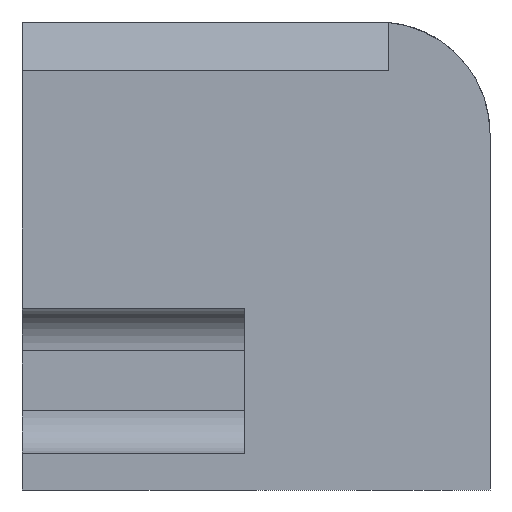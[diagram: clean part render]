
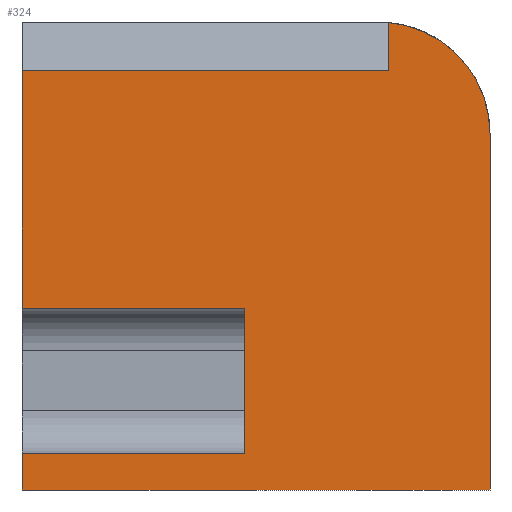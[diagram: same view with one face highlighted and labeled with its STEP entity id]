
A CAD part, left-side view. The second image highlights one B-rep face of the part: STEP entity #324.
In plain terms, the highlighted planar face has unit normal (-1, 0, 0).
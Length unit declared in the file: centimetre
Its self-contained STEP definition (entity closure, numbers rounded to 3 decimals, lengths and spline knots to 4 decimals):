
#7 = EDGE_CURVE ( 'NONE', #438, #342, #726, .T. ) ;
#9 = LINE ( 'NONE', #554, #192 ) ;
#19 = LINE ( 'NONE', #388, #980 ) ;
#20 = AXIS2_PLACEMENT_3D ( 'NONE', #312, #857, #673 ) ;
#30 = EDGE_CURVE ( 'NONE', #342, #910, #9, .T. ) ;
#54 = LINE ( 'NONE', #715, #279 ) ;
#81 = CARTESIAN_POINT ( 'NONE',  ( 0., 216.6511, 1000. ) ) ;
#88 = ORIENTED_EDGE ( 'NONE', *, *, #1122, .T. ) ;
#101 = CARTESIAN_POINT ( 'NONE',  ( 0., 239.1304, 760.8696 ) ) ;
#111 = LINE ( 'NONE', #1060, #928 ) ;
#112 = VERTEX_POINT ( 'NONE', #174 ) ;
#149 = ORIENTED_EDGE ( 'NONE', *, *, #972, .F. ) ;
#159 = EDGE_CURVE ( 'NONE', #314, #910, #653, .T. ) ;
#166 = DIRECTION ( 'NONE',  ( 0., 0., -1. ) ) ;
#168 = AXIS2_PLACEMENT_3D ( 'NONE', #101, #1127, #332 ) ;
#174 = CARTESIAN_POINT ( 'NONE',  ( 0., 216.6511, 998.9411 ) ) ;
#190 = DIRECTION ( 'NONE',  ( 0., 0., 1. ) ) ;
#192 = VECTOR ( 'NONE', #1069, 100. ) ;
#232 = CIRCLE ( 'NONE', #168, 239.1304 ) ;
#253 = CARTESIAN_POINT ( 'NONE',  ( 0., 0., 760.8696 ) ) ;
#260 = CARTESIAN_POINT ( 'NONE',  ( 0., 1000., 78.3353 ) ) ;
#268 = ORIENTED_EDGE ( 'NONE', *, *, #159, .F. ) ;
#274 = ORIENTED_EDGE ( 'NONE', *, *, #1112, .F. ) ;
#276 = VECTOR ( 'NONE', #1096, 100. ) ;
#279 = VECTOR ( 'NONE', #1045, 100. ) ;
#288 = CARTESIAN_POINT ( 'NONE',  ( 0., 1000., 1000. ) ) ;
#293 = LINE ( 'NONE', #288, #1053 ) ;
#297 = LINE ( 'NONE', #525, #557 ) ;
#301 = VECTOR ( 'NONE', #190, 100. ) ;
#312 = CARTESIAN_POINT ( 'NONE',  ( 0., 1000., 1000. ) ) ;
#314 = VERTEX_POINT ( 'NONE', #852 ) ;
#324 = ADVANCED_FACE ( 'NONE', ( #1025 ), #403, .F. ) ;
#325 = CARTESIAN_POINT ( 'NONE',  ( 0., 1000., 388.5053 ) ) ;
#332 = DIRECTION ( 'NONE',  ( 0., 0., -1. ) ) ;
#342 = VERTEX_POINT ( 'NONE', #325 ) ;
#360 = EDGE_CURVE ( 'NONE', #314, #365, #297, .T. ) ;
#365 = VERTEX_POINT ( 'NONE', #260 ) ;
#388 = CARTESIAN_POINT ( 'NONE',  ( 0., 216.6511, 896.0622 ) ) ;
#394 = ORIENTED_EDGE ( 'NONE', *, *, #360, .T. ) ;
#395 = LINE ( 'NONE', #81, #276 ) ;
#403 = PLANE ( 'NONE',  #20 ) ;
#433 = DIRECTION ( 'NONE',  ( 0., 1., 0. ) ) ;
#438 = VERTEX_POINT ( 'NONE', #1013 ) ;
#478 = VERTEX_POINT ( 'NONE', #541 ) ;
#482 = CARTESIAN_POINT ( 'NONE',  ( 0., 1000., 0. ) ) ;
#525 = CARTESIAN_POINT ( 'NONE',  ( 0., 524.3295, 78.3353 ) ) ;
#541 = CARTESIAN_POINT ( 'NONE',  ( 0., 216.6511, 896.0622 ) ) ;
#554 = CARTESIAN_POINT ( 'NONE',  ( 0., 524.3295, 388.5053 ) ) ;
#557 = VECTOR ( 'NONE', #433, 100. ) ;
#588 = VERTEX_POINT ( 'NONE', #482 ) ;
#611 = ORIENTED_EDGE ( 'NONE', *, *, #939, .T. ) ;
#636 = VECTOR ( 'NONE', #166, 100. ) ;
#638 = DIRECTION ( 'NONE',  ( 0., 0., -1. ) ) ;
#653 = LINE ( 'NONE', #999, #301 ) ;
#673 = DIRECTION ( 'NONE',  ( 0., 0., -1. ) ) ;
#715 = CARTESIAN_POINT ( 'NONE',  ( 0., 1000., 0. ) ) ;
#726 = LINE ( 'NONE', #1062, #636 ) ;
#743 = DIRECTION ( 'NONE',  ( 0., 1., 0. ) ) ;
#747 = CARTESIAN_POINT ( 'NONE',  ( 0., 524.3295, 388.5053 ) ) ;
#755 = EDGE_CURVE ( 'NONE', #588, #1136, #54, .T. ) ;
#804 = VERTEX_POINT ( 'NONE', #253 ) ;
#852 = CARTESIAN_POINT ( 'NONE',  ( 0., 524.3295, 78.3353 ) ) ;
#857 = DIRECTION ( 'NONE',  ( 1., 0., 0. ) ) ;
#910 = VERTEX_POINT ( 'NONE', #747 ) ;
#915 = ORIENTED_EDGE ( 'NONE', *, *, #30, .T. ) ;
#927 = ORIENTED_EDGE ( 'NONE', *, *, #7, .T. ) ;
#928 = VECTOR ( 'NONE', #638, 100. ) ;
#939 = EDGE_CURVE ( 'NONE', #804, #112, #232, .T. ) ;
#958 = ORIENTED_EDGE ( 'NONE', *, *, #755, .T. ) ;
#972 = EDGE_CURVE ( 'NONE', #804, #1136, #111, .T. ) ;
#980 = VECTOR ( 'NONE', #743, 100. ) ;
#988 = DIRECTION ( 'NONE',  ( 0., 0., -1. ) ) ;
#999 = CARTESIAN_POINT ( 'NONE',  ( 0., 524.3295, 1000. ) ) ;
#1013 = CARTESIAN_POINT ( 'NONE',  ( 0., 1000., 896.0622 ) ) ;
#1025 = FACE_OUTER_BOUND ( 'NONE', #1057, .T. ) ;
#1041 = EDGE_CURVE ( 'NONE', #478, #438, #19, .T. ) ;
#1045 = DIRECTION ( 'NONE',  ( 0., -1., 0. ) ) ;
#1053 = VECTOR ( 'NONE', #988, 100. ) ;
#1057 = EDGE_LOOP ( 'NONE', ( #268, #394, #88, #958, #149, #611, #274, #1128, #927, #915 ) ) ;
#1060 = CARTESIAN_POINT ( 'NONE',  ( 0., 0., 1000. ) ) ;
#1062 = CARTESIAN_POINT ( 'NONE',  ( 0., 1000., 1000. ) ) ;
#1069 = DIRECTION ( 'NONE',  ( 0., -1., 0. ) ) ;
#1096 = DIRECTION ( 'NONE',  ( 0., 0., 1. ) ) ;
#1112 = EDGE_CURVE ( 'NONE', #478, #112, #395, .T. ) ;
#1122 = EDGE_CURVE ( 'NONE', #365, #588, #293, .T. ) ;
#1127 = DIRECTION ( 'NONE',  ( -1., 0., 0. ) ) ;
#1128 = ORIENTED_EDGE ( 'NONE', *, *, #1041, .T. ) ;
#1136 = VERTEX_POINT ( 'NONE', #1171 ) ;
#1171 = CARTESIAN_POINT ( 'NONE',  ( 0., 0., 0. ) ) ;
